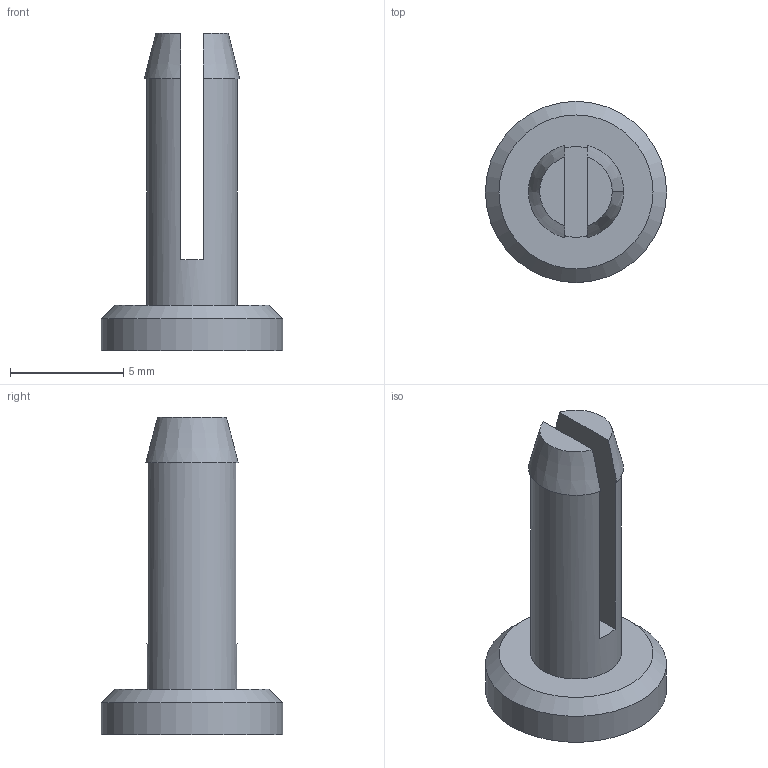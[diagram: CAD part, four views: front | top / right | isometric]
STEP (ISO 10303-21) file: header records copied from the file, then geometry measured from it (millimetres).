
FILE_DESCRIPTION(('FreeCAD Model'),'2;1');
FILE_NAME('Open CASCADE Shape Model','2026-09-08T07:02:48',('FreeCAD'),( 'FreeCAD'),'Open CASCADE STEP processor 7.8','FreeCAD','Unknown');
FILE_SCHEMA(('AUTOMOTIVE_DESIGN { 1 0 10303 214 1 1 1 1 }'));
Length unit declared in the file: millimetre
Products named in the file (1): Open CASCADE STEP translator 7.8 11
Bounding box: 8 x 8 x 14 mm (x, y, z)
Volume: 204.6 mm3; surface area: 344.4 mm2
Topology: 1 solids, 1 shells, 15 faces, 35 edges, 23 vertices
Faces by surface type: plane 9, cone 4, cylinder 2
Full cylindrical faces by diameter (mm): 4 x1, 8 x1
Entity records: 449 total; most frequent: DIRECTION 85, CARTESIAN_POINT 75, ORIENTED_EDGE 70, AXIS2_PLACEMENT_3D 35, EDGE_CURVE 35, VERTEX_POINT 23, FACE_BOUND 16, EDGE_LOOP 16
